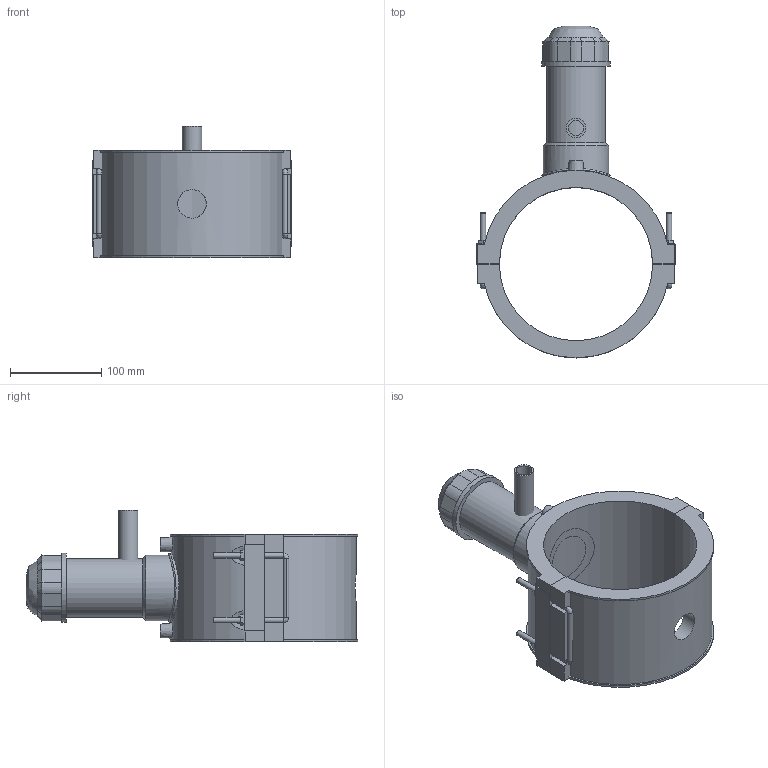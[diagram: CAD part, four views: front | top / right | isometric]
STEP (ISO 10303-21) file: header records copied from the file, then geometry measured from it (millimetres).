
FILE_DESCRIPTION(/* description */ ('PLASSON TAPPING SADDLE 6''''IPS x 1/2''''IPS'),/* implementation_level */ '2;1');
FILE_NAME(/* name */ 'C:\Dropbox\KIMPROJECTS-Inventor 2019\99-16-3568-Processing Inch\ASTM ElectroFusion 2021\5963BBP_5963BUP\5963BBP3060005.ipt.stp',/* time_stamp */ '2021-08-30T09:57:13+03:00',/* author */ ('KIM'),/* organization */ (''),/* preprocessor_version */ 'ST-DEVELOPER v17.2',/* originating_system */ 'Autodesk Inventor 2019',/* authorisation */ '');
FILE_SCHEMA (('AUTOMOTIVE_DESIGN { 1 0 10303 214 3 1 1 }'));
Length unit declared in the file: inch
Products named in the file (1): 5963BBP3060005
Bounding box: 217.9 x 363.85 x 144.15 mm (x, y, z)
Volume: 1603410.3 mm3; surface area: 268045.1 mm2
Topology: 3 solids, 3 shells, 187 faces, 489 edges, 313 vertices
Faces by surface type: plane 115, cylinder 47, cone 15, bspline 10
Full cylindrical faces by diameter (mm): 4 x2, 6 x8, 10 x2, 16.96 x1, 21.2 x1, 31.36 x1, 52.92 x1, 64.26 x1, 71.82 x1, 75.6 x2
Entity records: 6744 total; most frequent: CARTESIAN_POINT 2109, ORIENTED_EDGE 962, DIRECTION 932, EDGE_CURVE 481, AXIS2_PLACEMENT_3D 315, VERTEX_POINT 313, LINE 302, VECTOR 302
